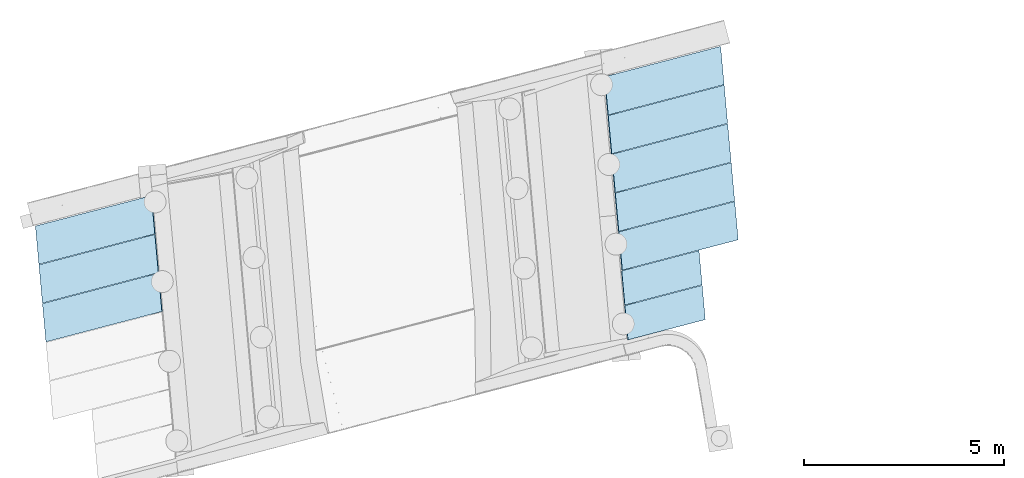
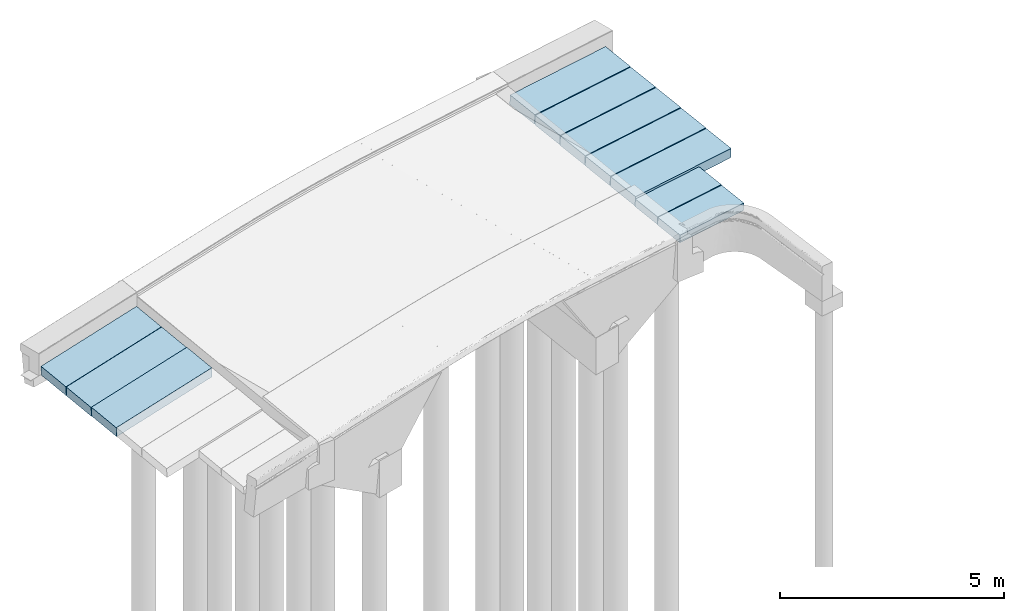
# One storey, part 4 of 15: 10 slabs.
"""IFC2X3 building model written with IfcOpenShell, lengths in millimetres."""

from ifc_helpers import new_model, entity, si_unit, converted_unit, derived_unit, direction, frame, origin, place, context, subcontext, project, spatial, polyline, outline, extrude, material, type_object, element, save


model = new_model("IFC2X3")

# Units and contexts
model_context = context("Model", 3, precision=0.01, world=origin(), true_north=direction((6.12303176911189e-17, 1.0)))
body_context = subcontext(model_context, "Body", "Model", "MODEL_VIEW")
ifc_project = project(units=[si_unit("LENGTHUNIT", "METRE", prefix="MILLI"), si_unit("AREAUNIT", "SQUARE_METRE"), si_unit("VOLUMEUNIT", "CUBIC_METRE"), converted_unit("PLANEANGLEUNIT", "DEGREE", entity("IfcRatioMeasure", 0.0174532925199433), si_unit("PLANEANGLEUNIT", "RADIAN"), dimensions=[0, 0, 0, 0, 0, 0, 0]), si_unit("MASSUNIT", "GRAM", prefix="KILO"), derived_unit("MASSDENSITYUNIT", [(si_unit("MASSUNIT", "GRAM", prefix="KILO"), 1), (si_unit("LENGTHUNIT", "METRE"), -3)]), si_unit("TIMEUNIT", "SECOND"), si_unit("FREQUENCYUNIT", "HERTZ"), si_unit("THERMODYNAMICTEMPERATUREUNIT", "DEGREE_CELSIUS"), derived_unit("THERMALTRANSMITTANCEUNIT", [(si_unit("MASSUNIT", "GRAM", prefix="KILO"), 1), (si_unit("THERMODYNAMICTEMPERATUREUNIT", "KELVIN"), -1), (si_unit("TIMEUNIT", "SECOND"), -3)]), derived_unit("VOLUMETRICFLOWRATEUNIT", [(si_unit("LENGTHUNIT", "METRE"), 3), (si_unit("TIMEUNIT", "SECOND"), -1)]), si_unit("ELECTRICCURRENTUNIT", "AMPERE"), si_unit("ELECTRICVOLTAGEUNIT", "VOLT"), si_unit("POWERUNIT", "WATT"), si_unit("FORCEUNIT", "NEWTON", prefix="KILO"), si_unit("ILLUMINANCEUNIT", "LUX"), si_unit("LUMINOUSFLUXUNIT", "LUMEN"), si_unit("LUMINOUSINTENSITYUNIT", "CANDELA"), derived_unit("USERDEFINED", [(si_unit("MASSUNIT", "GRAM", prefix="KILO"), -1), (si_unit("LENGTHUNIT", "METRE"), -2), (si_unit("TIMEUNIT", "SECOND"), 3), (si_unit("LUMINOUSFLUXUNIT", "LUMEN"), 1)]), derived_unit("LINEARVELOCITYUNIT", [(si_unit("LENGTHUNIT", "METRE"), 1), (si_unit("TIMEUNIT", "SECOND"), -1)]), si_unit("PRESSUREUNIT", "PASCAL"), derived_unit("USERDEFINED", [(si_unit("LENGTHUNIT", "METRE"), -2), (si_unit("MASSUNIT", "GRAM", prefix="KILO"), 1), (si_unit("TIMEUNIT", "SECOND"), -2)])], contexts=[model_context])

# Site, building, storey
site_placement = place(None, origin())
site = spatial("IfcSite", under=ifc_project, at=site_placement, Name="Bruggen Achterburggracht Machinesloot", CompositionType="ELEMENT")
building_placement = place(site_placement, origin())
building = spatial("IfcBuilding", under=site, at=building_placement, Name="Bruggen Achterburggracht Machinesloot", CompositionType="ELEMENT")
storey_placement = place(building_placement, origin())
storey = spatial("IfcBuildingStorey", under=building, at=storey_placement, Name="00 begane grond", CompositionType="ELEMENT", Elevation=2.70716782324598e-13)

# Slabs
ifc_material = material(Name="00_PBT_MAT_beton prefab")
slab_type_1 = type_object("IfcSlabType", Name="Strootplaat 3", PredefinedType="FLOOR", material=ifc_material)
slab_1_placement = place(storey_placement, origin())
element("IfcSlab", 1, at=slab_1_placement, inside=storey, type_object=slab_type_1, Name="Strootplaat 28:Strootplaat 3", ObjectType="Strootplaat 28:Strootplaat 3", PredefinedType="FLOOR", context=body_context, shape_type="SweptSolid", body=[
    extrude(outline(polyline([(-234.03380912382, -1479.42663278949), (729.176034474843, -1479.42663278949), (234.034116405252, 1479.4247965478), (-729.176341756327, 1479.42846903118), (-234.03380912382, -1479.42663278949)])), frame((-60594.0741978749, 122658.821022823, -335.608441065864), z_axis=(0.0506242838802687, 0.0132753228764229, 0.998629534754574), x_axis=(-0.0907462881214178, 0.995836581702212, -0.00863792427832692)), (0.0, 0.0, 1.0), 250.000000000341),
])
slab_type_2 = type_object("IfcSlabType", Name="Strootplaat 3", PredefinedType="FLOOR", material=ifc_material)
slab_2_placement = place(storey_placement, origin())
element("IfcSlab", 2, at=slab_2_placement, inside=storey, type_object=slab_type_2, Name="Strootplaat 30:Strootplaat 3", ObjectType="Strootplaat 30:Strootplaat 3", PredefinedType="FLOOR", context=body_context, shape_type="SweptSolid", body=[
    extrude(outline(polyline([(-265.862274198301, -986.284327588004), (595.957059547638, -986.284327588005), (265.862274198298, 986.284327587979), (-595.957059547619, 986.28432758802), (-265.862274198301, -986.284327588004)])), frame((-60653.3428293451, 117732.675243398, -301.543713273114), z_axis=(0.0506242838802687, 0.0132753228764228, 0.998629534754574), x_axis=(-0.0907462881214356, 0.99583658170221, -0.0086379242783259)), (0.0, 0.0, 1.0), 199.999801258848),
])
slab_type_3 = type_object("IfcSlabType", Name="Strootplaat 3", PredefinedType="FLOOR", material=ifc_material)
slab_3_placement = place(storey_placement, origin())
element("IfcSlab", 3, at=slab_3_placement, inside=storey, type_object=slab_type_3, Name="Strootplaat 24:Strootplaat 3", ObjectType="Strootplaat 24:Strootplaat 3", PredefinedType="FLOOR", context=body_context, shape_type="SweptSolid", body=[
    extrude(outline(polyline([(-234.033809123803, -1479.42663278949), (729.17603447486, -1479.42663278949), (234.034116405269, 1479.4247965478), (-729.17634175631, 1479.42846903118), (-234.033809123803, -1479.42663278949)])), frame((-60505.9676890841, 121689.466557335, -335.607989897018), z_axis=(0.0506242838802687, 0.0132753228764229, 0.998629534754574), x_axis=(-0.0907462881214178, 0.995836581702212, -0.00863792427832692)), (0.0, 0.0, 1.0), 250.000000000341),
])
slab_type_4 = type_object("IfcSlabType", Name="Strootplaat 3", PredefinedType="FLOOR", material=ifc_material)
slab_4_placement = place(storey_placement, origin())
element("IfcSlab", 4, at=slab_4_placement, inside=storey, type_object=slab_type_4, Name="Strootplaat 25:Strootplaat 3", ObjectType="Strootplaat 25:Strootplaat 3", PredefinedType="FLOOR", context=body_context, shape_type="SweptSolid", body=[
    extrude(outline(polyline([(-234.033809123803, -1479.42663278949), (729.17603447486, -1479.42663278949), (234.034116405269, 1479.4247965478), (-729.17634175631, 1479.42846903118), (-234.033809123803, -1479.42663278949)])), frame((-60417.7900831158, 120720.130735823, -335.611390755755), z_axis=(0.0506242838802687, 0.0132753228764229, 0.998629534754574), x_axis=(-0.0907462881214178, 0.995836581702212, -0.00863792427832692)), (0.0, 0.0, 1.0), 250.000000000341),
])
slab_type_5 = type_object("IfcSlabType", Name="Strootplaat 3", PredefinedType="FLOOR", material=ifc_material)
slab_5_placement = place(storey_placement, origin())
element("IfcSlab", 5, at=slab_5_placement, inside=storey, type_object=slab_type_5, Name="Strootplaat 26:Strootplaat 3", ObjectType="Strootplaat 26:Strootplaat 3", PredefinedType="FLOOR", context=body_context, shape_type="SweptSolid", body=[
    extrude(outline(polyline([(-234.033809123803, -1479.42663278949), (729.17603447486, -1479.42663278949), (234.034116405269, 1479.4247965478), (-729.17634175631, 1479.42846903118), (-234.033809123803, -1479.42663278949)])), frame((-60329.6732244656, 119750.778984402, -335.611500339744), z_axis=(0.0506242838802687, 0.0132753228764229, 0.998629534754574), x_axis=(-0.0907462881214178, 0.995836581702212, -0.00863792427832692)), (0.0, 0.0, 1.0), 250.000000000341),
])
slab_type_6 = type_object("IfcSlabType", Name="Strootplaat 3", PredefinedType="FLOOR", material=ifc_material)
slab_6_placement = place(storey_placement, origin())
element("IfcSlab", 6, at=slab_6_placement, inside=storey, type_object=slab_type_6, Name="Strootplaat 27:Strootplaat 3", ObjectType="Strootplaat 27:Strootplaat 3", PredefinedType="FLOOR", context=body_context, shape_type="SweptSolid", body=[
    extrude(outline(polyline([(-234.033809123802, -1479.42663278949), (729.176034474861, -1479.42663278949), (234.03411640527, 1479.42479654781), (-729.176341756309, 1479.42846903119), (-234.033809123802, -1479.42663278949)])), frame((-60241.6495283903, 118781.402802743, -335.606562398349), z_axis=(0.0506242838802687, 0.0132753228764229, 0.998629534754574), x_axis=(-0.0907462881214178, 0.995836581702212, -0.00863792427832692)), (0.0, 0.0, 1.0), 250.000000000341),
])
slab_type_7 = type_object("IfcSlabType", Name="Strootplaat 3", PredefinedType="FLOOR", material=ifc_material)
slab_7_placement = place(storey_placement, origin())
element("IfcSlab", 7, at=slab_7_placement, inside=storey, type_object=slab_type_7, Name="Strootplaat 37:Strootplaat 3", ObjectType="Strootplaat 37:Strootplaat 3", PredefinedType="FLOOR", context=body_context, shape_type="SweptSolid", body=[
    extrude(outline(polyline([(-265.862274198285, -986.284327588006), (595.957059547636, -986.284327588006), (265.8622741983, 986.284327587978), (-595.957059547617, 986.284327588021), (-265.862274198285, -986.284327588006)])), frame((-60574.4066220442, 116864.29715761, -301.547909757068), z_axis=(0.0506242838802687, 0.0132753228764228, 0.998629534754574), x_axis=(-0.0907462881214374, 0.99583658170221, -0.00863792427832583)), (0.0, 0.0, 1.0), 199.999801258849),
])
slab_type_8 = type_object("IfcSlabType", Name="Strootplaat 3", PredefinedType="FLOOR", material=ifc_material)
slab_8_placement = place(storey_placement, origin())
element("IfcSlab", 8, at=slab_8_placement, inside=storey, type_object=slab_type_8, Name="Strootplaat 29:Strootplaat 3", ObjectType="Strootplaat 29:Strootplaat 3", PredefinedType="FLOOR", context=body_context, shape_type="SweptSolid", body=[
    extrude(outline(polyline([(-234.033809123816, -1479.42663278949), (729.176034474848, -1479.42663278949), (234.034116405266, 1479.42479654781), (-729.176341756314, 1479.42846903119), (-234.033809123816, -1479.42663278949)])), frame((-74796.6059122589, 118934.458331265, -327.877788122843), z_axis=(-0.0506242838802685, -0.0132753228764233, 0.998629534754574), x_axis=(0.0907462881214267, -0.995836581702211, -0.00863792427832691)), (0.0, 0.0, 1.0), 250.000000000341),
])
slab_type_9 = type_object("IfcSlabType", Name="Strootplaat 3", PredefinedType="FLOOR", material=ifc_material)
slab_9_placement = place(storey_placement, origin())
element("IfcSlab", 9, at=slab_9_placement, inside=storey, type_object=slab_type_9, Name="Strootplaat 32:Strootplaat 3", ObjectType="Strootplaat 32:Strootplaat 3", PredefinedType="FLOOR", context=body_context, shape_type="SweptSolid", body=[
    extrude(outline(polyline([(-234.033809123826, -1479.42663278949), (729.17603447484, -1479.42663278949), (234.034116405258, 1479.42479654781), (-729.176341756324, 1479.42846903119), (-234.033809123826, -1479.42663278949)])), frame((-74708.5538461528, 117965.089589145, -333.803479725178), z_axis=(-0.0506242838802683, -0.0132753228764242, 0.998629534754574), x_axis=(0.0907462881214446, -0.99583658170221, -0.0086379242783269)), (0.0, 0.0, 1.0), 250.000000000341),
])
slab_type_10 = type_object("IfcSlabType", Name="Strootplaat 3", PredefinedType="FLOOR", material=ifc_material)
slab_10_placement = place(storey_placement, origin())
element("IfcSlab", 10, at=slab_10_placement, inside=storey, type_object=slab_type_10, Name="Strootplaat 33:Strootplaat 3", ObjectType="Strootplaat 33:Strootplaat 3", PredefinedType="FLOOR", context=body_context, shape_type="SweptSolid", body=[
    extrude(outline(polyline([(-234.033809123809, -1479.42663278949), (729.17603447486, -1479.42663278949), (234.034116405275, 1479.4247965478), (-729.17634175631, 1479.42846903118), (-234.033809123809, -1479.42663278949)])), frame((-74620.4410325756, 116995.736776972, -327.877788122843), z_axis=(-0.0506242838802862, -0.0132753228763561, 0.998629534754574), x_axis=(0.0907462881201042, -0.995836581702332, -0.00863792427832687)), (0.0, 0.0, 1.0), 250.000000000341),
])

save(model, "model.ifc")
